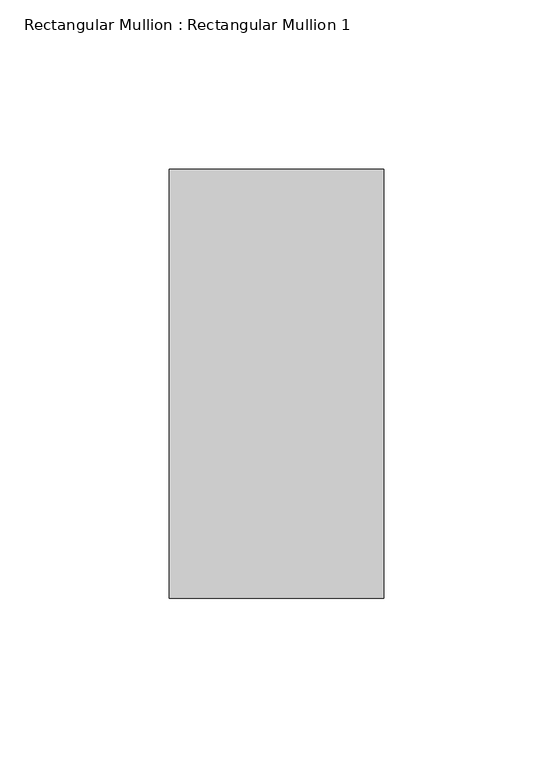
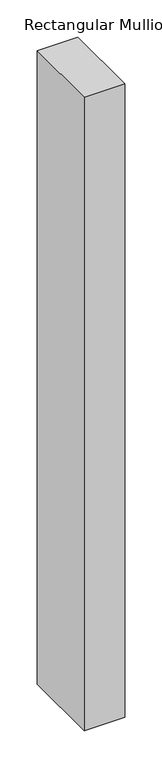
"""IFC4 building model written with IfcOpenShell, lengths in millimetres: member geometry, Rectangular Mullion : Rectangular Mullion 1."""

from ifc_helpers import new_model, si_unit, frame, origin, place, context, project, spatial, polyline, outline, extrude, source, transform, mapped, element, save


def rectangular_mullion_rectangular_mullion_1_1b5fb080(model_context):
    return source(origin(), model_context, "Body", "SweptSolid", [
        extrude(outline(polyline([(31.75, 63.5), (31.75, -63.5), (-31.75, -63.5), (-31.75, 63.5), (31.75, 63.5)])), frame((0.0, 0.0, -1043.4108166), z_axis=(0.0, 0.0, 1.0), x_axis=(1.0, 0.0, 0.0)), (0.0, 0.0, 1.0), 1043.4108166),
    ])


if __name__ == "__main__":
    model = new_model("IFC4")
    model_context = context("Model", 3, world=origin())
    ifc_project = project(units=[si_unit("LENGTHUNIT", "METRE", prefix="MILLI")], contexts=[model_context])
    site = spatial("IfcSite", under=ifc_project)
    building = spatial("IfcBuilding", under=site)
    placement = place(None, origin())
    rectangular_mullion_rectangular_mullion_1_shape = rectangular_mullion_rectangular_mullion_1_1b5fb080(model_context)
    element("IfcMember", 1, ObjectType="Rectangular Mullion : Rectangular Mullion 1", at=placement, inside=building, context=model_context, shape_type="MappedRepresentation", body=[
        mapped(rectangular_mullion_rectangular_mullion_1_shape, transform((0.0, 0.0, 0.0), x_axis=(1.0, 0.0, 0.0), y_axis=(0.0, 1.0, 0.0), z_axis=(0.0, 0.0, 1.0))),
    ])
    save(model, "model.ifc")
